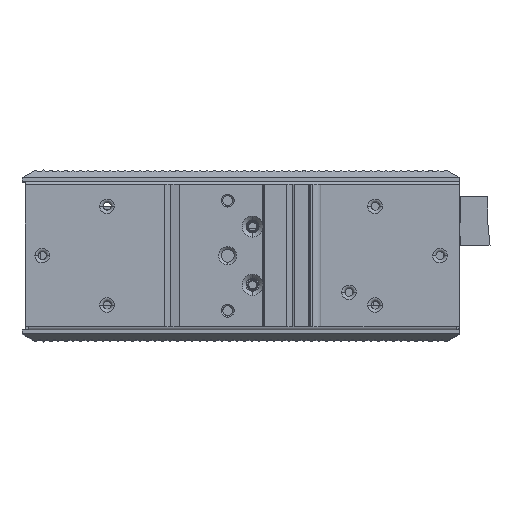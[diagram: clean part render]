
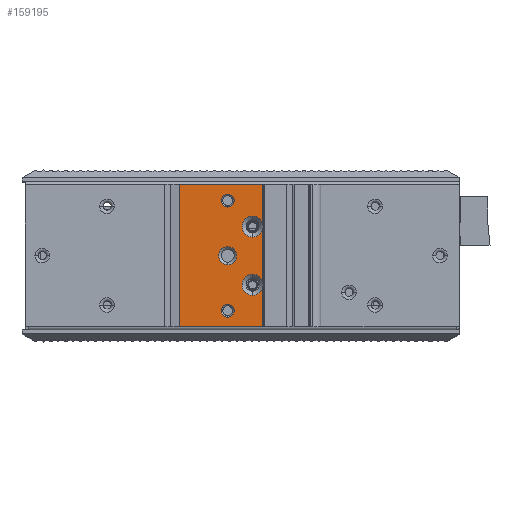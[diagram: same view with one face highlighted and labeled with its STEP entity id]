
A CAD part, top view. The second image highlights one B-rep face of the part: STEP entity #159195.
In plain terms, the highlighted planar face has unit normal (0, 0, 1).
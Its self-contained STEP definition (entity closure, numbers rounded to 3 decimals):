
#157895=DIRECTION('',(-1.,0.,0.));
#157896=VECTOR('',#157895,25.635);
#157897=CARTESIAN_POINT('',(6.03,-0.1,48.7));
#157898=LINE('',#157897,#157896);
#158106=CARTESIAN_POINT('',(2.83,30.9,48.7));
#158107=DIRECTION('',(0.,0.,-1.));
#158108=DIRECTION('',(0.,1.,0.));
#158109=AXIS2_PLACEMENT_3D('',#158106,#158107,#158108);
#158111=CARTESIAN_POINT('',(2.83,30.9,48.7));
#158112=DIRECTION('',(0.,0.,-1.));
#158113=DIRECTION('',(0.,-1.,0.));
#158114=AXIS2_PLACEMENT_3D('',#158111,#158112,#158113);
#158116=CARTESIAN_POINT('',(2.83,30.9,48.7));
#158117=DIRECTION('',(0.,0.,-1.));
#158118=DIRECTION('',(0.985,-0.175,0.));
#158119=AXIS2_PLACEMENT_3D('',#158116,#158117,#158118);
#158121=CARTESIAN_POINT('',(2.83,12.9,48.7));
#158122=DIRECTION('',(0.,0.,-1.));
#158123=DIRECTION('',(0.,1.,0.));
#158124=AXIS2_PLACEMENT_3D('',#158121,#158122,#158123);
#158126=CARTESIAN_POINT('',(2.83,12.9,48.7));
#158127=DIRECTION('',(0.,0.,-1.));
#158128=DIRECTION('',(0.,-1.,0.));
#158129=AXIS2_PLACEMENT_3D('',#158126,#158127,#158128);
#158131=CARTESIAN_POINT('',(2.83,12.9,48.7));
#158132=DIRECTION('',(0.,0.,-1.));
#158133=DIRECTION('',(0.985,-0.175,0.));
#158134=AXIS2_PLACEMENT_3D('',#158131,#158132,#158133);
#158136=DIRECTION('',(-1.,0.,0.));
#158137=VECTOR('',#158136,25.635);
#158138=CARTESIAN_POINT('',(6.03,43.9,48.7));
#158139=LINE('',#158138,#158137);
#158140=CARTESIAN_POINT('',(-4.87,21.9,48.7));
#158141=DIRECTION('',(0.,0.,-1.));
#158142=DIRECTION('',(0.,1.,0.));
#158143=AXIS2_PLACEMENT_3D('',#158140,#158141,#158142);
#158145=CARTESIAN_POINT('',(-4.87,21.9,48.7));
#158146=DIRECTION('',(0.,0.,-1.));
#158147=DIRECTION('',(0.,-1.,0.));
#158148=AXIS2_PLACEMENT_3D('',#158145,#158146,#158147);
#158150=CARTESIAN_POINT('',(-4.87,4.9,48.7));
#158151=DIRECTION('',(0.,0.,-1.));
#158152=DIRECTION('',(0.,1.,0.));
#158153=AXIS2_PLACEMENT_3D('',#158150,#158151,#158152);
#158155=CARTESIAN_POINT('',(-4.87,4.9,48.7));
#158156=DIRECTION('',(0.,0.,-1.));
#158157=DIRECTION('',(0.,-1.,0.));
#158158=AXIS2_PLACEMENT_3D('',#158155,#158156,#158157);
#158160=CARTESIAN_POINT('',(-4.87,38.9,48.7));
#158161=DIRECTION('',(0.,0.,-1.));
#158162=DIRECTION('',(0.,1.,0.));
#158163=AXIS2_PLACEMENT_3D('',#158160,#158161,#158162);
#158165=CARTESIAN_POINT('',(-4.87,38.9,48.7));
#158166=DIRECTION('',(0.,0.,-1.));
#158167=DIRECTION('',(0.,-1.,0.));
#158168=AXIS2_PLACEMENT_3D('',#158165,#158166,#158167);
#158183=DIRECTION('',(0.,-1.,0.));
#158184=VECTOR('',#158183,16.864);
#158185=CARTESIAN_POINT('',(6.03,30.332,48.7));
#158186=LINE('',#158185,#158184);
#158187=CARTESIAN_POINT('',(6.03,31.468,48.7));
#158194=DIRECTION('',(0.,-1.,0.));
#158195=VECTOR('',#158194,12.432);
#158196=CARTESIAN_POINT('',(6.03,43.9,48.7));
#158197=LINE('',#158196,#158195);
#158202=DIRECTION('',(0.,-1.,0.));
#158203=VECTOR('',#158202,12.432);
#158204=CARTESIAN_POINT('',(6.03,12.332,48.7));
#158205=LINE('',#158204,#158203);
#158211=CARTESIAN_POINT('',(6.03,12.332,48.7));
#158420=DIRECTION('',(0.,1.,0.));
#158421=VECTOR('',#158420,44.);
#158422=CARTESIAN_POINT('',(-19.605,-0.1,48.7));
#158423=LINE('',#158422,#158421);
#158783=CARTESIAN_POINT('',(6.03,-0.1,48.7));
#158784=CARTESIAN_POINT('',(-19.605,-0.1,48.7));
#158785=VERTEX_POINT('',#158783);
#158786=VERTEX_POINT('',#158784);
#158787=CARTESIAN_POINT('',(6.03,30.332,48.7));
#158788=CARTESIAN_POINT('',(6.03,13.468,48.7));
#158789=VERTEX_POINT('',#158787);
#158790=VERTEX_POINT('',#158788);
#158795=VERTEX_POINT('',#158187);
#158796=VERTEX_POINT('',#158211);
#158801=CARTESIAN_POINT('',(-19.605,43.9,48.7));
#158802=VERTEX_POINT('',#158801);
#158803=CARTESIAN_POINT('',(2.83,34.15,48.7));
#158804=VERTEX_POINT('',#158803);
#158805=CARTESIAN_POINT('',(2.83,27.65,48.7));
#158806=VERTEX_POINT('',#158805);
#158807=CARTESIAN_POINT('',(6.03,43.9,48.7));
#158808=VERTEX_POINT('',#158807);
#158809=CARTESIAN_POINT('',(2.83,16.15,48.7));
#158810=VERTEX_POINT('',#158809);
#158819=CARTESIAN_POINT('',(2.83,9.65,48.7));
#158820=VERTEX_POINT('',#158819);
#158823=CARTESIAN_POINT('',(-4.87,24.65,48.7));
#158824=CARTESIAN_POINT('',(-4.87,19.15,48.7));
#158825=VERTEX_POINT('',#158823);
#158826=VERTEX_POINT('',#158824);
#158839=CARTESIAN_POINT('',(-4.87,6.9,48.7));
#158840=CARTESIAN_POINT('',(-4.87,2.9,48.7));
#158841=VERTEX_POINT('',#158839);
#158842=VERTEX_POINT('',#158840);
#158861=CARTESIAN_POINT('',(-4.87,40.9,48.7));
#158862=CARTESIAN_POINT('',(-4.87,36.9,48.7));
#158863=VERTEX_POINT('',#158861);
#158864=VERTEX_POINT('',#158862);
#159147=CARTESIAN_POINT('',(6.23,48.3,48.7));
#159148=DIRECTION('',(0.,0.,-1.));
#159149=DIRECTION('',(-1.,0.,0.));
#159150=AXIS2_PLACEMENT_3D('',#159147,#159148,#159149);
#159151=PLANE('',#159150);
#159153=ORIENTED_EDGE('',*,*,#159152,.F.);
#159155=ORIENTED_EDGE('',*,*,#159154,.F.);
#159157=ORIENTED_EDGE('',*,*,#159156,.F.);
#159159=ORIENTED_EDGE('',*,*,#159158,.T.);
#159161=ORIENTED_EDGE('',*,*,#159160,.F.);
#159163=ORIENTED_EDGE('',*,*,#159162,.F.);
#159165=ORIENTED_EDGE('',*,*,#159164,.F.);
#159167=ORIENTED_EDGE('',*,*,#159166,.T.);
#159168=ORIENTED_EDGE('',*,*,#159050,.T.);
#159170=ORIENTED_EDGE('',*,*,#159169,.T.);
#159172=ORIENTED_EDGE('',*,*,#159171,.F.);
#159174=ORIENTED_EDGE('',*,*,#159173,.T.);
#159175=EDGE_LOOP('',(#159153,#159155,#159157,#159159,#159161,#159163,#159165,
#159167,#159168,#159170,#159172,#159174));
#159176=FACE_OUTER_BOUND('',#159175,.F.);
#159178=ORIENTED_EDGE('',*,*,#159177,.F.);
#159180=ORIENTED_EDGE('',*,*,#159179,.F.);
#159181=EDGE_LOOP('',(#159178,#159180));
#159182=FACE_BOUND('',#159181,.F.);
#159184=ORIENTED_EDGE('',*,*,#159183,.F.);
#159186=ORIENTED_EDGE('',*,*,#159185,.F.);
#159187=EDGE_LOOP('',(#159184,#159186));
#159188=FACE_BOUND('',#159187,.F.);
#159190=ORIENTED_EDGE('',*,*,#159189,.F.);
#159192=ORIENTED_EDGE('',*,*,#159191,.F.);
#159193=EDGE_LOOP('',(#159190,#159192));
#159194=FACE_BOUND('',#159193,.F.);
#159195=ADVANCED_FACE('',(#159176,#159182,#159188,#159194),#159151,.F.);
#158110=CIRCLE('',#158109,3.25);
#158115=CIRCLE('',#158114,3.25);
#158120=CIRCLE('',#158119,3.25);
#158125=CIRCLE('',#158124,3.25);
#158130=CIRCLE('',#158129,3.25);
#158135=CIRCLE('',#158134,3.25);
#158144=CIRCLE('',#158143,2.75);
#158149=CIRCLE('',#158148,2.75);
#158154=CIRCLE('',#158153,2.);
#158159=CIRCLE('',#158158,2.);
#158164=CIRCLE('',#158163,2.);
#158169=CIRCLE('',#158168,2.);
#159050=EDGE_CURVE('',#158785,#158786,#157898,.T.);
#159152=EDGE_CURVE('',#158804,#158795,#158110,.T.);
#159154=EDGE_CURVE('',#158806,#158804,#158115,.T.);
#159156=EDGE_CURVE('',#158789,#158806,#158120,.T.);
#159158=EDGE_CURVE('',#158789,#158790,#158186,.T.);
#159160=EDGE_CURVE('',#158810,#158790,#158125,.T.);
#159162=EDGE_CURVE('',#158820,#158810,#158130,.T.);
#159164=EDGE_CURVE('',#158796,#158820,#158135,.T.);
#159166=EDGE_CURVE('',#158796,#158785,#158205,.T.);
#159169=EDGE_CURVE('',#158786,#158802,#158423,.T.);
#159171=EDGE_CURVE('',#158808,#158802,#158139,.T.);
#159173=EDGE_CURVE('',#158808,#158795,#158197,.T.);
#159177=EDGE_CURVE('',#158825,#158826,#158144,.T.);
#159179=EDGE_CURVE('',#158826,#158825,#158149,.T.);
#159183=EDGE_CURVE('',#158841,#158842,#158154,.T.);
#159185=EDGE_CURVE('',#158842,#158841,#158159,.T.);
#159189=EDGE_CURVE('',#158863,#158864,#158164,.T.);
#159191=EDGE_CURVE('',#158864,#158863,#158169,.T.);
